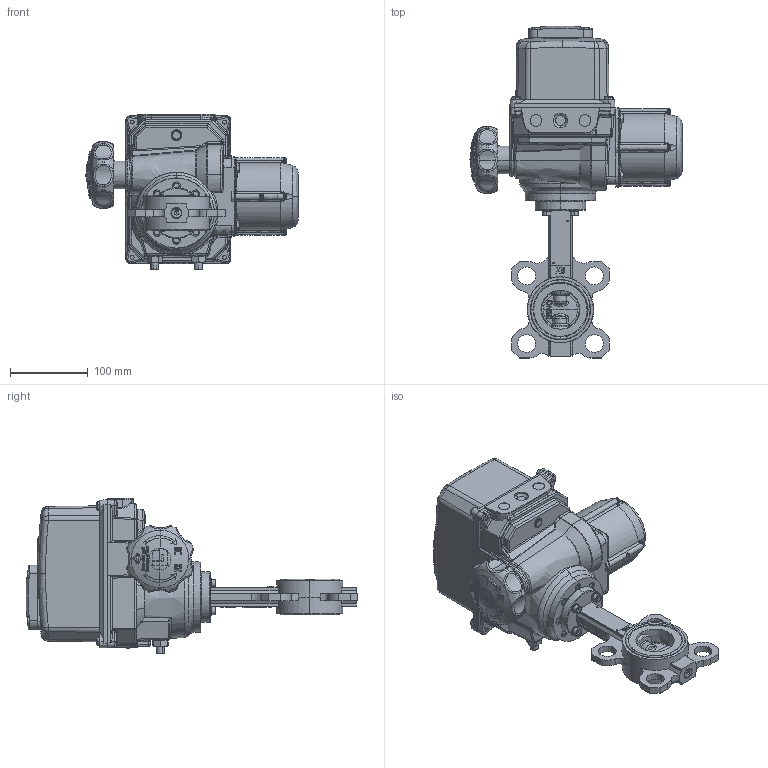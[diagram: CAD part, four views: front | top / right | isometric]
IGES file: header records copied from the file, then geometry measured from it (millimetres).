
Start section: SolidWorks IGES file using NURBS representation for surfaces
Global section: file name: H:\BE BIBLIOTHEQUE 3D\Projet_Biblio3D_2016\FSK\VPI\VPI-B04\VPI-B24 DN50.Igs; native system: SolidWorks 2014; preprocessor: SolidWorks 2014; author: a.cartier; date: 160929.165725; units: millimetre
Bounding box: 272.5 x 426.7 x 199.8 mm (x, y, z)
Volume: 4896384.2 mm3; surface area: 307447.9 mm2
Topology: 14 solids, 14 shells, 2908 faces, 7613 edges, 4760 vertices
Faces by surface type: bspline 2908
